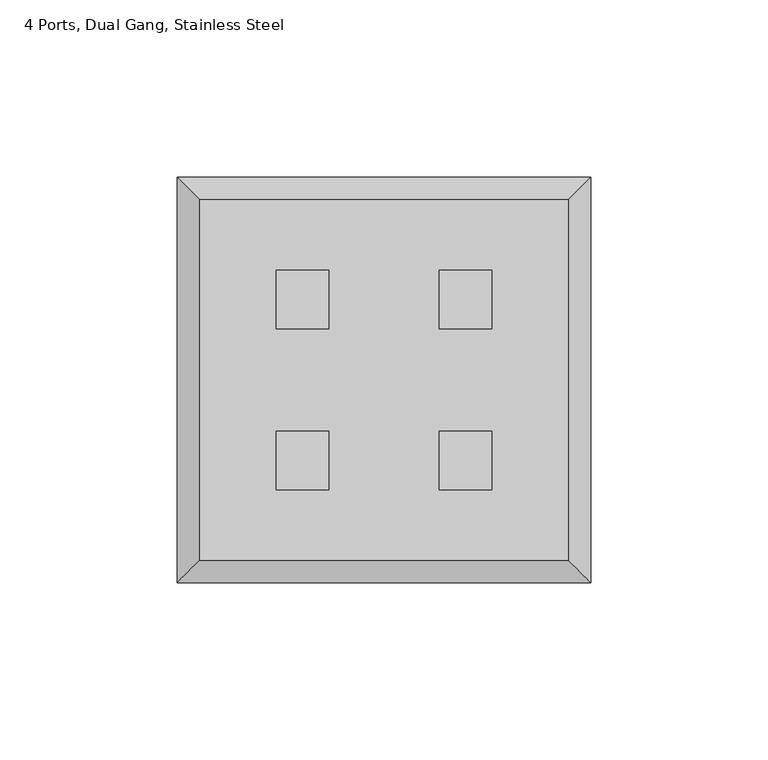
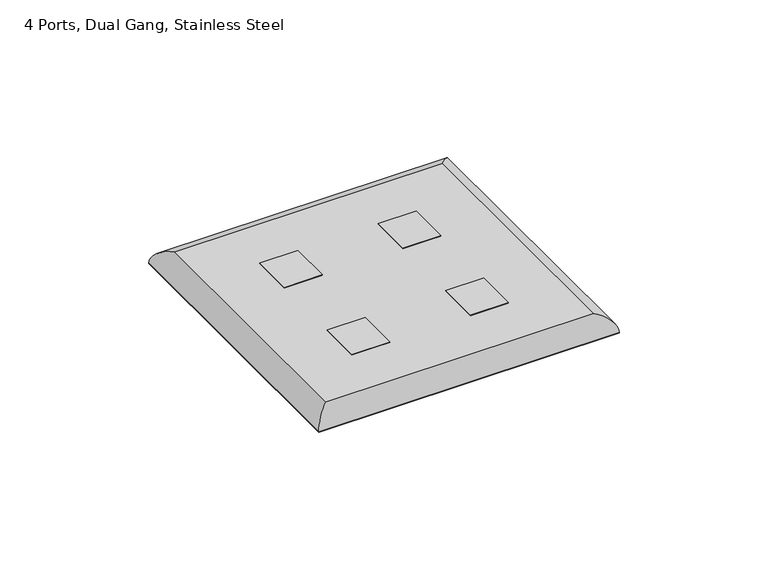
"""IFC4 building model written with IfcOpenShell, lengths in millimetres: electric appliance geometry, Data_Device-Work_Area-Leviton-QuickPort-Wallplate : 4 Ports, Dual Gang, Stainless Steel."""

from ifc_helpers import new_model, si_unit, frame, origin, origin_with_axes, place, context, project, spatial, polyline, ellipse_curve, outline, extrude, source, transform, mapped, element, save
from ifc_brep_helpers import plane_surface, cylinder_surface, advanced_brep


def electric_appliance_4_ports_dual_gang_stainless_steel_dddfb011(model_context):
    return source(origin(), model_context, "Body", "SolidModel", [
        extrude(outline(polyline([(-38.6715, 39.1414), (-38.6715, 22.6314), (-53.4035, 22.6314), (-53.4035, 39.1414), (-38.6715, 39.1414)])), origin_with_axes(), (0.0, 0.0, 1.0), 6.35),
        extrude(outline(polyline([(-38.6715, -6.2484), (-38.6715, -22.7584), (-53.4035, -22.7584), (-53.4035, -6.2484), (-38.6715, -6.2484)])), origin_with_axes(), (0.0, 0.0, 1.0), 6.35),
        extrude(outline(polyline([(7.3533, 39.1414), (7.3533, 22.6314), (-7.3787, 22.6314), (-7.3787, 39.1414), (7.3533, 39.1414)])), origin_with_axes(), (0.0, 0.0, 1.0), 6.35),
        extrude(outline(polyline([(7.3533, -6.2484), (7.3533, -22.7584), (-7.3787, -22.7584), (-7.3787, -6.2484), (7.3533, -6.2484)])), origin_with_axes(), (0.0, 0.0, 1.0), 6.35),
        advanced_brep(
        [(28.9179, -42.6085, 6.35), (28.9179, 58.9915, 6.35), (-74.9681, 58.9915, 6.35), (-74.9681, -42.6085, 6.35), (-53.4035, 39.1414, 6.35), (-38.6715, 39.1414, 6.35), (-38.6715, 22.6314, 6.35), (-53.4035, 22.6314, 6.35), (-53.4035, -6.2484, 6.35), (-38.6715, -6.2484, 6.35), (-38.6715, -22.7584, 6.35), (-53.4035, -22.7584, 6.35), (-7.3787, 39.1414, 6.35), (7.3533, 39.1414, 6.35), (7.3533, 22.6314, 6.35), (-7.3787, 22.6314, 6.35), (-7.3787, -6.2484, 6.35), (7.3533, -6.2484, 6.35), (7.3533, -22.7584, 6.35), (-7.3787, -22.7584, 6.35), (35.2679, 65.3415, 0.0), (35.2679, -48.9585, 0.0), (-81.3181, -48.9585, 0.0), (-81.3181, 65.3415, 0.0), (-38.6715, 39.1414, 0.0), (-53.4035, 39.1414, 0.0), (-53.4035, 22.6314, 0.0), (-38.6715, 22.6314, 0.0), (-38.6715, -6.2484, 0.0), (-53.4035, -6.2484, 0.0), (-53.4035, -22.7584, 0.0), (-38.6715, -22.7584, 0.0), (7.3533, 39.1414, 0.0), (-7.3787, 39.1414, 0.0), (-7.3787, 22.6314, 0.0), (7.3533, 22.6314, 0.0), (7.3533, -6.2484, 0.0), (-7.3787, -6.2484, 0.0), (-7.3787, -22.7584, 0.0), (7.3533, -22.7584, 0.0), (-81.3181, 65.3415, 0.254), (35.2679, 65.3415, 0.254), (-81.3181, -48.9585, 0.254), (35.2679, -48.9585, 0.254)],
        [
            (0, 1),
            (1, 2),
            (2, 3),
            (3, 0),
            (4, 5),
            (5, 6),
            (6, 7),
            (7, 4),
            (8, 9),
            (9, 10),
            (10, 11),
            (11, 8),
            (12, 13),
            (13, 14),
            (14, 15),
            (15, 12),
            (16, 17),
            (17, 18),
            (18, 19),
            (19, 16),
            (20, 21),
            (21, 22),
            (22, 23),
            (23, 20),
            (24, 25),
            (25, 26),
            (26, 27),
            (27, 24),
            (28, 29),
            (29, 30),
            (30, 31),
            (31, 28),
            (32, 33),
            (33, 34),
            (34, 35),
            (35, 32),
            (36, 37),
            (37, 38),
            (38, 39),
            (39, 36),
            (23, 40),
            (40, 41),
            (41, 20),
            (22, 42),
            (42, 40),
            (21, 43),
            (43, 42),
            (41, 43),
            (4, 25),
            (24, 5),
            (7, 26),
            (6, 27),
            (8, 29),
            (28, 9),
            (11, 30),
            (10, 31),
            (12, 33),
            (32, 13),
            (15, 34),
            (14, 35),
            (16, 37),
            (36, 17),
            (19, 38),
            (18, 39),
            (0, 43, ellipse_curve(frame((28.9179, -42.6085, -0.0052917), z_axis=(0.7071067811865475, 0.7071067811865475, 0.0), x_axis=(0.7071067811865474, -0.7071067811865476, 0.0)), 8.9877397, 6.3552917)),
            (41, 1, ellipse_curve(frame((28.9179, 58.9915, -0.0052917), z_axis=(0.7071067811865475, -0.7071067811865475, 0.0), x_axis=(-0.7071067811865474, -0.7071067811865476, 0.0)), 8.9877397, 6.3552917)),
            (3, 42, ellipse_curve(frame((-74.9681, -42.6085, -0.0052917), z_axis=(0.7071067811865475, -0.7071067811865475, 0.0), x_axis=(-0.7071067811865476, -0.7071067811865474, 0.0)), 8.9877397, 6.3552917)),
            (2, 40, ellipse_curve(frame((-74.9681, 58.9915, -0.0052917), z_axis=(-0.7071067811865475, -0.7071067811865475, 0.0), x_axis=(-0.7071067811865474, 0.7071067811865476, 0.0)), 8.9877397, 6.3552917)),
        ],
        [
            plane_surface(frame((-81.3181, 65.3415, 6.35), z_axis=(0.0, 0.0, 1.0), x_axis=(-1.0, 0.0, 0.0))),
            plane_surface(frame((-81.3181, 65.3415, 0.0), z_axis=(0.0, 0.0, -1.0), x_axis=(1.0, 0.0, 0.0))),
            plane_surface(frame((35.2679, 65.3415, 6.35), z_axis=(0.0, 1.0, 0.0), x_axis=(0.0, 0.0, -1.0))),
            plane_surface(frame((-81.3181, 65.3415, 6.35), z_axis=(-1.0, 0.0, 0.0), x_axis=(0.0, 0.0, -1.0))),
            plane_surface(frame((-81.3181, -48.9585, 6.35), z_axis=(0.0, -1.0, 0.0), x_axis=(0.0, 0.0, -1.0))),
            plane_surface(frame((35.2679, -48.9585, 6.35), z_axis=(1.0, 0.0, 0.0), x_axis=(0.0, 0.0, -1.0))),
            plane_surface(frame((-38.6715, 39.1414, 6.35), z_axis=(0.0, -1.0, 0.0), x_axis=(0.0, 0.0, -1.0))),
            plane_surface(frame((-53.4035, 39.1414, 6.35), z_axis=(1.0, 0.0, 0.0), x_axis=(0.0, 0.0, -1.0))),
            plane_surface(frame((-53.4035, 22.6314, 6.35), z_axis=(0.0, 1.0, 0.0), x_axis=(0.0, 0.0, -1.0))),
            plane_surface(frame((-38.6715, 22.6314, 6.35), z_axis=(-1.0, 0.0, 0.0), x_axis=(0.0, 0.0, -1.0))),
            plane_surface(frame((-38.6715, -6.2484, 6.35), z_axis=(0.0, -1.0, 0.0), x_axis=(0.0, 0.0, -1.0))),
            plane_surface(frame((-53.4035, -6.2484, 6.35), z_axis=(1.0, 0.0, 0.0), x_axis=(0.0, 0.0, -1.0))),
            plane_surface(frame((-53.4035, -22.7584, 6.35), z_axis=(0.0, 1.0, 0.0), x_axis=(0.0, 0.0, -1.0))),
            plane_surface(frame((-38.6715, -22.7584, 6.35), z_axis=(-1.0, 0.0, 0.0), x_axis=(0.0, 0.0, -1.0))),
            plane_surface(frame((7.3533, 39.1414, 6.35), z_axis=(0.0, -1.0, 0.0), x_axis=(0.0, 0.0, -1.0))),
            plane_surface(frame((-7.3787, 39.1414, 6.35), z_axis=(1.0, 0.0, 0.0), x_axis=(0.0, 0.0, -1.0))),
            plane_surface(frame((-7.3787, 22.6314, 6.35), z_axis=(0.0, 1.0, 0.0), x_axis=(0.0, 0.0, -1.0))),
            plane_surface(frame((7.3533, 22.6314, 6.35), z_axis=(-1.0, 0.0, 0.0), x_axis=(0.0, 0.0, -1.0))),
            plane_surface(frame((7.3533, -6.2484, 6.35), z_axis=(0.0, -1.0, 0.0), x_axis=(0.0, 0.0, -1.0))),
            plane_surface(frame((-7.3787, -6.2484, 6.35), z_axis=(1.0, 0.0, 0.0), x_axis=(0.0, 0.0, -1.0))),
            plane_surface(frame((-7.3787, -22.7584, 6.35), z_axis=(0.0, 1.0, 0.0), x_axis=(0.0, 0.0, -1.0))),
            plane_surface(frame((7.3533, -22.7584, 6.35), z_axis=(-1.0, 0.0, 0.0), x_axis=(0.0, 0.0, -1.0))),
            cylinder_surface(frame((28.9179, 65.3415, -0.0052917), z_axis=(0.0, -1.0, 0.0), x_axis=(1.0, 0.0, 0.0)), 6.3552917),
            cylinder_surface(frame((35.2679, -42.6085, -0.0052917), z_axis=(-1.0, 0.0, 0.0), x_axis=(0.0, -1.0, 0.0)), 6.3552917),
            cylinder_surface(frame((-74.9681, -48.9585, -0.0052917), z_axis=(0.0, 1.0, 0.0), x_axis=(-1.0, 0.0, 0.0)), 6.3552917),
            cylinder_surface(frame((-81.3181, 58.9915, -0.0052917), z_axis=(1.0, 0.0, 0.0), x_axis=(0.0, 1.0, 0.0)), 6.3552917),
        ],
        [
            (0, [[1, 2, 3, 4], [5, 6, 7, 8], [9, 10, 11, 12], [13, 14, 15, 16], [17, 18, 19, 20]]),
            (1, [[21, 22, 23, 24], [25, 26, 27, 28], [29, 30, 31, 32], [33, 34, 35, 36], [37, 38, 39, 40]]),
            (2, [[-24, 41, 42, 43]]),
            (3, [[-23, 44, 45, -41]]),
            (4, [[-22, 46, 47, -44]]),
            (5, [[-21, -43, 48, -46]]),
            (6, [[49, -25, 50, -5]]),
            (7, [[-49, -8, 51, -26]]),
            (8, [[-51, -7, 52, -27]]),
            (9, [[-50, -28, -52, -6]]),
            (10, [[53, -29, 54, -9]]),
            (11, [[-53, -12, 55, -30]]),
            (12, [[-55, -11, 56, -31]]),
            (13, [[-54, -32, -56, -10]]),
            (14, [[57, -33, 58, -13]]),
            (15, [[-57, -16, 59, -34]]),
            (16, [[-59, -15, 60, -35]]),
            (17, [[-58, -36, -60, -14]]),
            (18, [[61, -37, 62, -17]]),
            (19, [[-61, -20, 63, -38]]),
            (20, [[-63, -19, 64, -39]]),
            (21, [[-62, -40, -64, -18]]),
            (22, [[65, -48, 66, -1]]),
            (23, [[-65, -4, 67, -47]]),
            (24, [[-67, -3, 68, -45]]),
            (25, [[-66, -42, -68, -2]]),
        ],
    ),
        extrude(outline(polyline([(35.0139, 65.0875), (35.0139, -48.7045), (-81.0641, -48.7045), (-81.0641, 65.0875), (35.0139, 65.0875)]), holes=[polyline([(-38.6715, 39.1414), (-53.4035, 39.1414), (-53.4035, 22.6314), (-38.6715, 22.6314), (-38.6715, 39.1414)]), polyline([(-38.6715, -6.2484), (-53.4035, -6.2484), (-53.4035, -22.7584), (-38.6715, -22.7584), (-38.6715, -6.2484)]), polyline([(7.3533, 39.1414), (-7.3787, 39.1414), (-7.3787, 22.6314), (7.3533, 22.6314), (7.3533, 39.1414)]), polyline([(7.3533, -6.2484), (-7.3787, -6.2484), (-7.3787, -22.7584), (7.3533, -22.7584), (7.3533, -6.2484)])]), origin_with_axes(), (0.0, 0.0, 1.0), 0.254),
    ])


if __name__ == "__main__":
    model = new_model("IFC4")
    model_context = context("Model", 3, world=origin())
    ifc_project = project(units=[si_unit("LENGTHUNIT", "METRE", prefix="MILLI")], contexts=[model_context])
    site = spatial("IfcSite", under=ifc_project)
    building = spatial("IfcBuilding", under=site)
    placement = place(None, origin())
    electric_appliance_4_ports_dual_gang_stainless_steel_shape = electric_appliance_4_ports_dual_gang_stainless_steel_dddfb011(model_context)
    element("IfcElectricAppliance", 1, ObjectType="Data_Device-Work_Area-Leviton-QuickPort-Wallplate : 4 Ports, Dual Gang, Stainless Steel", at=placement, inside=building, context=model_context, shape_type="MappedRepresentation", body=[
        mapped(electric_appliance_4_ports_dual_gang_stainless_steel_shape, transform((0.0, 0.0, 0.0), x_axis=(1.0, 0.0, 0.0), y_axis=(0.0, 1.0, 0.0), z_axis=(0.0, 0.0, 1.0))),
    ])
    save(model, "model.ifc")
